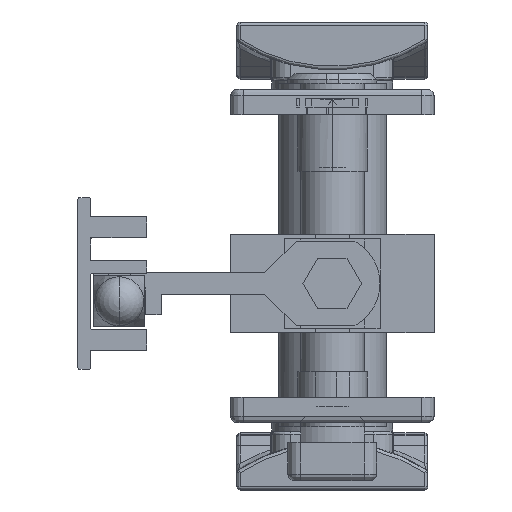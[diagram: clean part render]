
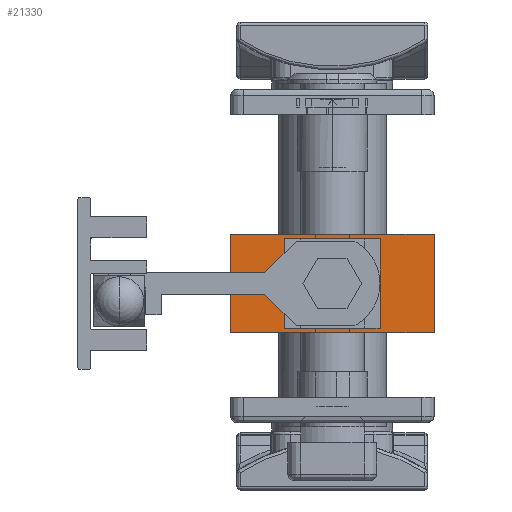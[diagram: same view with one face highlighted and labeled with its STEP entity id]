
A CAD part, front view. The second image highlights one B-rep face of the part: STEP entity #21330.
In plain terms, the highlighted planar face has unit normal (0, -1, 0).
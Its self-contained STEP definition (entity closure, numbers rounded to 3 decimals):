
#755 = CARTESIAN_POINT ( 'NONE',  ( -16., -199.25, 7.75 ) ) ;
#1239 = DIRECTION ( 'NONE',  ( 0., 0., -1. ) ) ;
#1532 = VERTEX_POINT ( 'NONE', #21461 ) ;
#1944 = ORIENTED_EDGE ( 'NONE', *, *, #6903, .T. ) ;
#2171 = DIRECTION ( 'NONE',  ( 0., 0., 1. ) ) ;
#2237 = EDGE_CURVE ( 'NONE', #1532, #20764, #17840, .T. ) ;
#2299 = EDGE_CURVE ( 'NONE', #37313, #34051, #21758, .T. ) ;
#2490 = CARTESIAN_POINT ( 'NONE',  ( -16., -199.25, 7.75 ) ) ;
#2612 = VECTOR ( 'NONE', #31590, 1000. ) ;
#3363 = CARTESIAN_POINT ( 'NONE',  ( 16., -199.25, 7.75 ) ) ;
#4185 = CARTESIAN_POINT ( 'NONE',  ( -7., -199.25, -6.25 ) ) ;
#5310 = CARTESIAN_POINT ( 'NONE',  ( -16., -199.25, 7.75 ) ) ;
#5373 = CARTESIAN_POINT ( 'NONE',  ( -7., -199.25, 6.25 ) ) ;
#5375 = DIRECTION ( 'NONE',  ( 0., 0., 1. ) ) ;
#6556 = CARTESIAN_POINT ( 'NONE',  ( -16., -199.25, -7.75 ) ) ;
#6903 = EDGE_CURVE ( 'NONE', #14871, #37313, #31013, .T. ) ;
#7126 = EDGE_LOOP ( 'NONE', ( #9997, #7135, #36521, #1944 ) ) ;
#7135 = ORIENTED_EDGE ( 'NONE', *, *, #31027, .F. ) ;
#7796 = VECTOR ( 'NONE', #1239, 1000. ) ;
#8428 = FACE_OUTER_BOUND ( 'NONE', #7126, .T. ) ;
#9157 = EDGE_CURVE ( 'NONE', #16989, #23346, #35383, .T. ) ;
#9679 = VECTOR ( 'NONE', #10792, 1000. ) ;
#9997 = ORIENTED_EDGE ( 'NONE', *, *, #2299, .T. ) ;
#10102 = VECTOR ( 'NONE', #34323, 1000. ) ;
#10792 = DIRECTION ( 'NONE',  ( 0., 0., -1. ) ) ;
#12631 = EDGE_CURVE ( 'NONE', #23346, #1532, #32883, .T. ) ;
#14515 = CARTESIAN_POINT ( 'NONE',  ( -7., -199.25, -6.25 ) ) ;
#14681 = FACE_BOUND ( 'NONE', #22261, .T. ) ;
#14871 = VERTEX_POINT ( 'NONE', #38855 ) ;
#15133 = VECTOR ( 'NONE', #27622, 1000. ) ;
#15436 = ORIENTED_EDGE ( 'NONE', *, *, #31246, .F. ) ;
#15524 = VERTEX_POINT ( 'NONE', #3363 ) ;
#16989 = VERTEX_POINT ( 'NONE', #33442 ) ;
#17840 = LINE ( 'NONE', #14515, #15133 ) ;
#18003 = DIRECTION ( 'NONE',  ( 0., 1., 0. ) ) ;
#18884 = CARTESIAN_POINT ( 'NONE',  ( 7., -199.25, 6.25 ) ) ;
#20746 = CARTESIAN_POINT ( 'NONE',  ( 16., -199.25, 7.75 ) ) ;
#20764 = VERTEX_POINT ( 'NONE', #32473 ) ;
#21330 = ADVANCED_FACE ( 'NONE', ( #14681, #8428 ), #39420, .F. ) ;
#21461 = CARTESIAN_POINT ( 'NONE',  ( -7., -199.25, -6.25 ) ) ;
#21758 = LINE ( 'NONE', #37781, #30370 ) ;
#22261 = EDGE_LOOP ( 'NONE', ( #36688, #34196, #15436, #32249 ) ) ;
#23346 = VERTEX_POINT ( 'NONE', #5373 ) ;
#23451 = EDGE_CURVE ( 'NONE', #14871, #15524, #38017, .T. ) ;
#25416 = DIRECTION ( 'NONE',  ( -1., 0., 0. ) ) ;
#25828 = CARTESIAN_POINT ( 'NONE',  ( 7., -199.25, 6.25 ) ) ;
#26429 = CARTESIAN_POINT ( 'NONE',  ( 16., -199.25, -7.75 ) ) ;
#27622 = DIRECTION ( 'NONE',  ( 1., 0., 0. ) ) ;
#29746 = AXIS2_PLACEMENT_3D ( 'NONE', #5310, #18003, #2171 ) ;
#30343 = LINE ( 'NONE', #20746, #9679 ) ;
#30370 = VECTOR ( 'NONE', #34460, 1000. ) ;
#31013 = LINE ( 'NONE', #2490, #10102 ) ;
#31027 = EDGE_CURVE ( 'NONE', #15524, #34051, #30343, .T. ) ;
#31155 = VECTOR ( 'NONE', #25416, 1000. ) ;
#31246 = EDGE_CURVE ( 'NONE', #20764, #16989, #40307, .T. ) ;
#31590 = DIRECTION ( 'NONE',  ( 1., 0., 0. ) ) ;
#32249 = ORIENTED_EDGE ( 'NONE', *, *, #2237, .F. ) ;
#32473 = CARTESIAN_POINT ( 'NONE',  ( 7., -199.25, -6.25 ) ) ;
#32883 = LINE ( 'NONE', #4185, #7796 ) ;
#33442 = CARTESIAN_POINT ( 'NONE',  ( 7., -199.25, 6.25 ) ) ;
#34051 = VERTEX_POINT ( 'NONE', #26429 ) ;
#34196 = ORIENTED_EDGE ( 'NONE', *, *, #9157, .F. ) ;
#34323 = DIRECTION ( 'NONE',  ( 0., 0., -1. ) ) ;
#34460 = DIRECTION ( 'NONE',  ( 1., 0., 0. ) ) ;
#34505 = VECTOR ( 'NONE', #5375, 1000. ) ;
#35383 = LINE ( 'NONE', #25828, #31155 ) ;
#36521 = ORIENTED_EDGE ( 'NONE', *, *, #23451, .F. ) ;
#36688 = ORIENTED_EDGE ( 'NONE', *, *, #12631, .F. ) ;
#37313 = VERTEX_POINT ( 'NONE', #6556 ) ;
#37781 = CARTESIAN_POINT ( 'NONE',  ( -16., -199.25, -7.75 ) ) ;
#38017 = LINE ( 'NONE', #755, #2612 ) ;
#38855 = CARTESIAN_POINT ( 'NONE',  ( -16., -199.25, 7.75 ) ) ;
#39420 = PLANE ( 'NONE',  #29746 ) ;
#40307 = LINE ( 'NONE', #18884, #34505 ) ;
